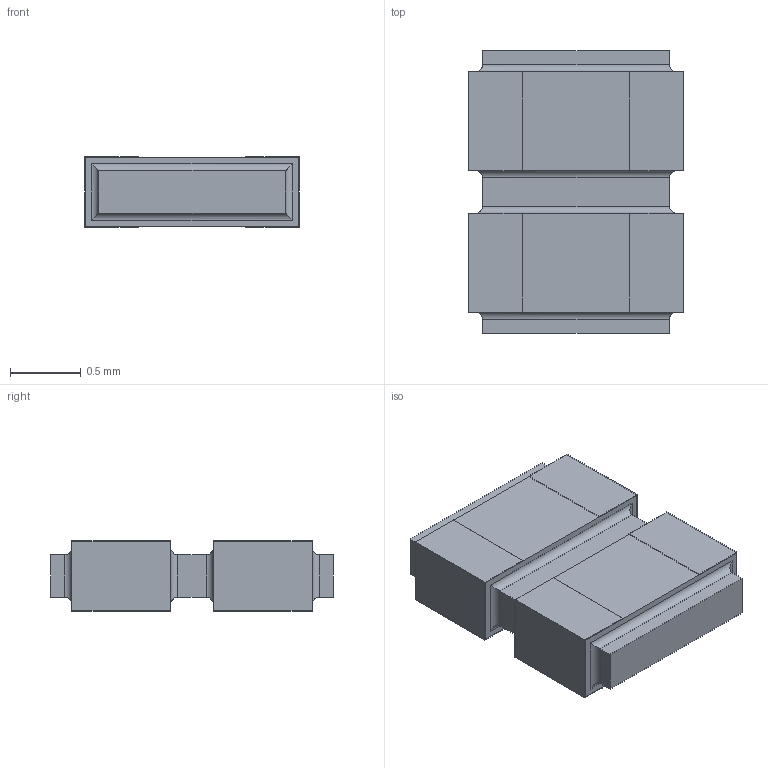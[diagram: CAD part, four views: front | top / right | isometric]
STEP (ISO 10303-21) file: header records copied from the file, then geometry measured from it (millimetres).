
FILE_DESCRIPTION(/* description */ (''),/* implementation_level */ '2;1');
FILE_NAME(/* name */ 'S:\DOCUMENT\AUTOCAD\3D_Modèles\10_3D-pour-VISHAY-COM\PRA\PRA100\PRA100-I2_à_I8\20_STEP\PRA100I2_B-or-N-or-G.stp',/* time_stamp */ '2017-12-18T09:14:58+01:00',/* author */ ('dparmentier'),/* organization */ ('unknown'),/* preprocessor_version */ 'ST-DEVELOPER v17',/* originating_system */ 'Autodesk Inventor 2018',/* authorisation */ '');
FILE_SCHEMA (('AUTOMOTIVE_DESIGN { 1 0 10303 214 3 1 1 }'));
Length unit declared in the file: millimetre
Products named in the file (1): PRA100I2_B-or-N-or-G
Bounding box: 1.52 x 2 x 0.5 mm (x, y, z)
Volume: 1.3 mm3; surface area: 16.5 mm2
Topology: 5 solids, 5 shells, 82 faces, 188 edges, 120 vertices
Faces by surface type: plane 66, cylinder 16
Entity records: 2309 total; most frequent: CARTESIAN_POINT 391, ORIENTED_EDGE 376, DIRECTION 370, EDGE_CURVE 188, LINE 172, VECTOR 172, VERTEX_POINT 120, AXIS2_PLACEMENT_3D 99
